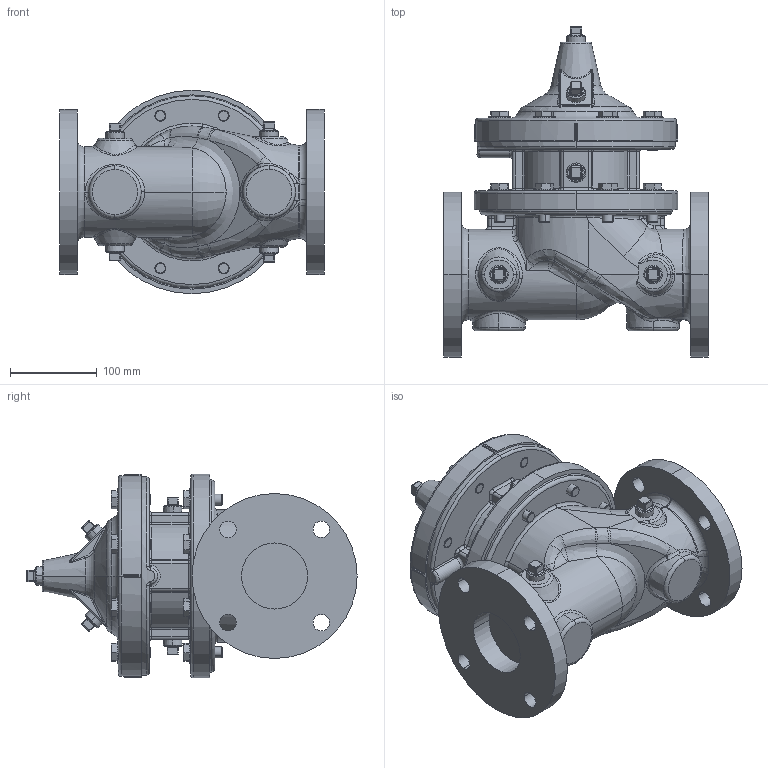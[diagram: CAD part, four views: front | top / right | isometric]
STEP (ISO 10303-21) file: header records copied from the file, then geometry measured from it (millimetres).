
FILE_DESCRIPTION (( 'STEP AP203' ), '1' );
FILE_NAME ('3in 100-02, 150AG.STEP', '2017-10-05T20:17:41', ( '' ), ( '' ), 'SwSTEP 2.0', 'SolidWorks 2017', '' );
FILE_SCHEMA (( 'CONFIG_CONTROL_DESIGN' ));
Length unit declared in the file: inch
Products named in the file (7): 3in 100-02, 150AG; 3in Body HyGl150A STD_Default 150 FLAT FACE; 3in Cover (no core)_Default (NO CORE); Bolt .500-13 UNC  (67607)_1.5   67607-08F; .500 NPT SQ HD PIPE PLUG (67660)_STEEL CP (FORGED); WASHER, PLAIN FLAT FOR .500 SCREW (67750)_.500N   67750-04C; 3in Body, PU_DI
Assembly tree (44 placements, depth 2):
  3in 100-02, 150AG
    3in Body HyGl150A STD_Default 150 FLAT FACE
    3in Cover (no core)_Default (NO CORE)
    Bolt .500-13 UNC  (67607)_1.5   67607-08F  x16
    .500 NPT SQ HD PIPE PLUG (67660)_STEEL CP (FORGED)  x9
    WASHER, PLAIN FLAT FOR .500 SCREW (67750)_.500N   67750-04C  x16
    3in Body, PU_DI
Bounding box: 304.8 x 381.13 x 234.95 mm (x, y, z)
Volume: 7835167.1 mm3; surface area: 715108.3 mm2
Topology: 44 solids, 44 shells, 1819 faces, 4061 edges, 2254 vertices
Faces by surface type: cylinder 453, plane 354, bspline 317, cone 315, torus 244, sphere 136
Entity records: 33364 total; most frequent: CARTESIAN_POINT 14427, DIRECTION 3704, ORIENTED_EDGE 3566, EDGE_CURVE 1783, AXIS2_PLACEMENT_3D 1598, VERTEX_POINT 1046, CIRCLE 928, EDGE_LOOP 893
